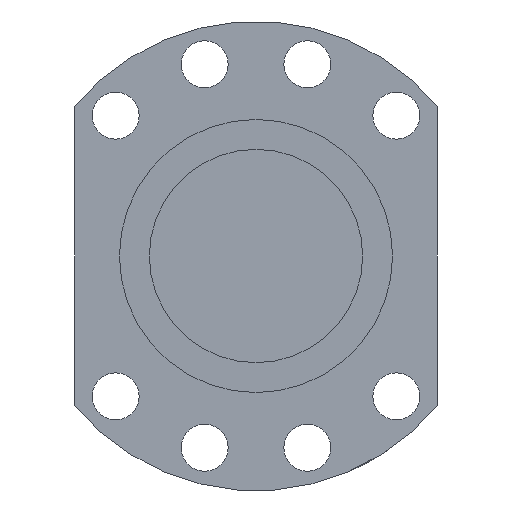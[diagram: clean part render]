
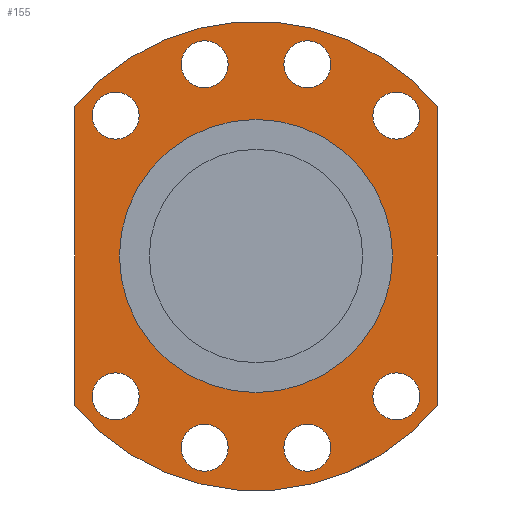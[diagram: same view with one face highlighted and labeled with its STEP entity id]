
A CAD part, front view. The second image highlights one B-rep face of the part: STEP entity #155.
In plain terms, the highlighted planar face has unit normal (0, -1, 0).
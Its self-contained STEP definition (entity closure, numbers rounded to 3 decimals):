
#98=LINE('',#942,#106);
#102=LINE('',#1013,#110);
#106=VECTOR('',#728,1.);
#110=VECTOR('',#740,1.);
#130=PLANE('',#649);
#155=ADVANCED_FACE('',(#225,#226,#227,#228,#229,#230,#231,#232,#233,#234),
#130,.F.);
#225=FACE_BOUND('',#309,.T.);
#226=FACE_BOUND('',#310,.T.);
#227=FACE_BOUND('',#311,.T.);
#228=FACE_BOUND('',#312,.T.);
#229=FACE_BOUND('',#313,.T.);
#230=FACE_BOUND('',#314,.T.);
#231=FACE_BOUND('',#315,.T.);
#232=FACE_BOUND('',#316,.T.);
#233=FACE_BOUND('',#317,.T.);
#234=FACE_BOUND('',#318,.T.);
#309=EDGE_LOOP('',(#408));
#310=EDGE_LOOP('',(#409));
#311=EDGE_LOOP('',(#410));
#312=EDGE_LOOP('',(#411));
#313=EDGE_LOOP('',(#412));
#314=EDGE_LOOP('',(#413));
#315=EDGE_LOOP('',(#414));
#316=EDGE_LOOP('',(#415));
#317=EDGE_LOOP('',(#416));
#318=EDGE_LOOP('',(#417,#418,#419,#420));
#408=ORIENTED_EDGE('',*,*,#543,.F.);
#409=ORIENTED_EDGE('',*,*,#544,.F.);
#410=ORIENTED_EDGE('',*,*,#545,.F.);
#411=ORIENTED_EDGE('',*,*,#546,.F.);
#412=ORIENTED_EDGE('',*,*,#547,.T.);
#413=ORIENTED_EDGE('',*,*,#548,.T.);
#414=ORIENTED_EDGE('',*,*,#549,.T.);
#415=ORIENTED_EDGE('',*,*,#550,.T.);
#416=ORIENTED_EDGE('',*,*,#551,.T.);
#417=ORIENTED_EDGE('',*,*,#521,.F.);
#418=ORIENTED_EDGE('',*,*,#532,.F.);
#419=ORIENTED_EDGE('',*,*,#529,.F.);
#420=ORIENTED_EDGE('',*,*,#525,.F.);
#474=VERTEX_POINT('',#934);
#475=VERTEX_POINT('',#935);
#478=VERTEX_POINT('',#943);
#481=VERTEX_POINT('',#1008);
#492=VERTEX_POINT('',#1036);
#493=VERTEX_POINT('',#1038);
#494=VERTEX_POINT('',#1040);
#495=VERTEX_POINT('',#1042);
#496=VERTEX_POINT('',#1044);
#497=VERTEX_POINT('',#1046);
#498=VERTEX_POINT('',#1048);
#499=VERTEX_POINT('',#1050);
#500=VERTEX_POINT('',#1052);
#521=EDGE_CURVE('',#474,#475,#571,.T.);
#525=EDGE_CURVE('',#475,#478,#98,.T.);
#529=EDGE_CURVE('',#478,#481,#573,.T.);
#532=EDGE_CURVE('',#481,#474,#102,.T.);
#543=EDGE_CURVE('',#492,#492,#584,.T.);
#544=EDGE_CURVE('',#493,#493,#585,.T.);
#545=EDGE_CURVE('',#494,#494,#586,.T.);
#546=EDGE_CURVE('',#495,#495,#587,.T.);
#547=EDGE_CURVE('',#496,#496,#588,.T.);
#548=EDGE_CURVE('',#497,#497,#589,.T.);
#549=EDGE_CURVE('',#498,#498,#590,.T.);
#550=EDGE_CURVE('',#499,#499,#591,.T.);
#551=EDGE_CURVE('',#500,#500,#592,.T.);
#571=CIRCLE('',#622,55.);
#573=CIRCLE('',#626,55.);
#584=CIRCLE('',#640,5.5);
#585=CIRCLE('',#641,5.5);
#586=CIRCLE('',#642,5.5);
#587=CIRCLE('',#643,5.5);
#588=CIRCLE('',#644,5.5);
#589=CIRCLE('',#645,5.5);
#590=CIRCLE('',#646,5.5);
#591=CIRCLE('',#647,5.5);
#592=CIRCLE('',#648,32.);
#622=AXIS2_PLACEMENT_3D('',#933,#720,#721);
#626=AXIS2_PLACEMENT_3D('',#1007,#733,#734);
#640=AXIS2_PLACEMENT_3D('',#1035,#764,#765);
#641=AXIS2_PLACEMENT_3D('',#1037,#766,#767);
#642=AXIS2_PLACEMENT_3D('',#1039,#768,#769);
#643=AXIS2_PLACEMENT_3D('',#1041,#770,#771);
#644=AXIS2_PLACEMENT_3D('',#1043,#772,#773);
#645=AXIS2_PLACEMENT_3D('',#1045,#774,#775);
#646=AXIS2_PLACEMENT_3D('',#1047,#776,#777);
#647=AXIS2_PLACEMENT_3D('',#1049,#778,#779);
#648=AXIS2_PLACEMENT_3D('',#1051,#780,#781);
#649=AXIS2_PLACEMENT_3D('',#1053,#782,#783);
#720=DIRECTION('',(0.,1.,0.));
#721=DIRECTION('',(1.,0.,0.));
#728=DIRECTION('',(0.,0.,-1.));
#733=DIRECTION('',(0.,1.,0.));
#734=DIRECTION('',(1.,0.,0.));
#740=DIRECTION('',(0.,0.,1.));
#764=DIRECTION('',(0.,-1.,0.));
#765=DIRECTION('',(-1.,0.,0.));
#766=DIRECTION('',(0.,-1.,0.));
#767=DIRECTION('',(-0.866,0.,-0.5));
#768=DIRECTION('',(0.,-1.,0.));
#769=DIRECTION('',(-0.5,0.,-0.866));
#770=DIRECTION('',(0.,-1.,0.));
#771=DIRECTION('',(0.,0.,-1.));
#772=DIRECTION('',(0.,1.,0.));
#773=DIRECTION('',(-1.,0.,0.));
#774=DIRECTION('',(0.,1.,0.));
#775=DIRECTION('',(-0.866,0.,0.5));
#776=DIRECTION('',(0.,1.,0.));
#777=DIRECTION('',(-0.5,0.,0.866));
#778=DIRECTION('',(0.,1.,0.));
#779=DIRECTION('',(0.,0.,1.));
#780=DIRECTION('',(0.,1.,0.));
#781=DIRECTION('',(0.,0.,1.));
#782=DIRECTION('',(0.,1.,0.));
#783=DIRECTION('',(0.,0.,-1.));
#933=CARTESIAN_POINT('',(0.,-44.,0.));
#934=CARTESIAN_POINT('',(-42.5,-44.,34.911));
#935=CARTESIAN_POINT('',(42.5,-44.,34.911));
#942=CARTESIAN_POINT('',(42.5,-44.,34.911));
#943=CARTESIAN_POINT('',(42.5,-44.,-34.911));
#1007=CARTESIAN_POINT('',(0.,-44.,0.));
#1008=CARTESIAN_POINT('',(-42.5,-44.,-34.911));
#1013=CARTESIAN_POINT('',(-42.5,-44.,-34.911));
#1035=CARTESIAN_POINT('',(32.88,-44.,32.88));
#1036=CARTESIAN_POINT('',(27.38,-44.,32.88));
#1037=CARTESIAN_POINT('',(12.035,-44.,44.916));
#1038=CARTESIAN_POINT('',(7.272,-44.,42.166));
#1039=CARTESIAN_POINT('',(-12.035,-44.,44.916));
#1040=CARTESIAN_POINT('',(-14.785,-44.,40.152));
#1041=CARTESIAN_POINT('',(-32.88,-44.,32.88));
#1042=CARTESIAN_POINT('',(-32.88,-44.,27.38));
#1043=CARTESIAN_POINT('',(32.88,-44.,-32.88));
#1044=CARTESIAN_POINT('',(27.38,-44.,-32.88));
#1045=CARTESIAN_POINT('',(12.035,-44.,-44.916));
#1046=CARTESIAN_POINT('',(7.272,-44.,-42.166));
#1047=CARTESIAN_POINT('',(-12.035,-44.,-44.916));
#1048=CARTESIAN_POINT('',(-14.785,-44.,-40.152));
#1049=CARTESIAN_POINT('',(-32.88,-44.,-32.88));
#1050=CARTESIAN_POINT('',(-32.88,-44.,-27.38));
#1051=CARTESIAN_POINT('',(0.,-44.,0.));
#1052=CARTESIAN_POINT('',(0.,-44.,32.));
#1053=CARTESIAN_POINT('',(0.,-44.,0.));
